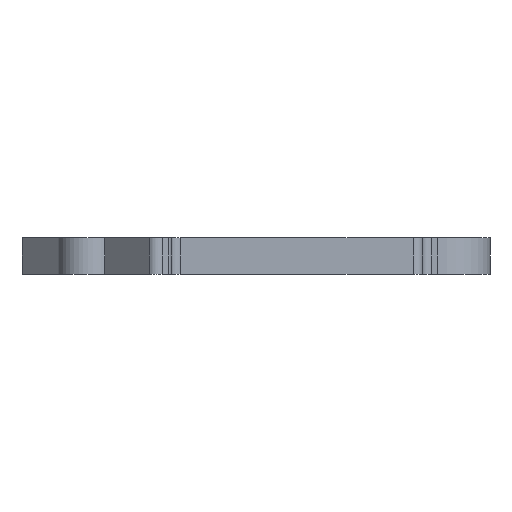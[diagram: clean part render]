
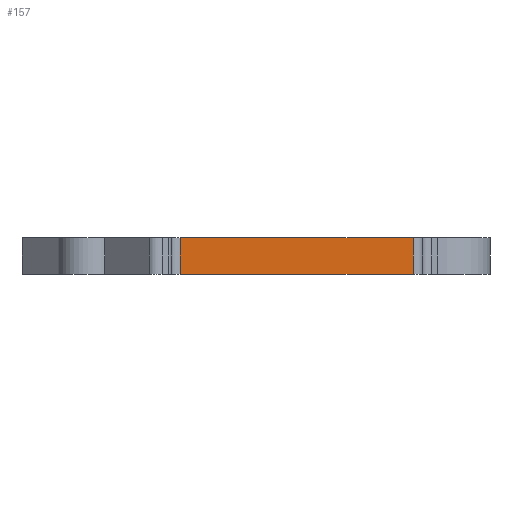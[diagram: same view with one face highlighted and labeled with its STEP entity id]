
A CAD part, front view. The second image highlights one B-rep face of the part: STEP entity #157.
In plain terms, the highlighted planar face has unit normal (0, -1, 0).
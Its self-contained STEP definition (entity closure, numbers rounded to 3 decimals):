
#44 = DIRECTION ( 'NONE',  ( 1., 0., 0. ) ) ;
#46 = LINE ( 'NONE', #1185, #407 ) ;
#148 = CARTESIAN_POINT ( 'NONE',  ( 1.7, -8.4, 4. ) ) ;
#157 = ADVANCED_FACE ( 'NONE', ( #653 ), #451, .F. ) ;
#163 = DIRECTION ( 'NONE',  ( 0., 0., -1. ) ) ;
#194 = ORIENTED_EDGE ( 'NONE', *, *, #856, .T. ) ;
#195 = CARTESIAN_POINT ( 'NONE',  ( 1.7, -8.4, 0. ) ) ;
#216 = DIRECTION ( 'NONE',  ( 0., 0., 1. ) ) ;
#262 = EDGE_LOOP ( 'NONE', ( #477, #411, #194, #475 ) ) ;
#407 = VECTOR ( 'NONE', #163, 1000. ) ;
#411 = ORIENTED_EDGE ( 'NONE', *, *, #768, .T. ) ;
#451 = PLANE ( 'NONE',  #468 ) ;
#468 = AXIS2_PLACEMENT_3D ( 'NONE', #555, #1355, #216 ) ;
#475 = ORIENTED_EDGE ( 'NONE', *, *, #1188, .T. ) ;
#477 = ORIENTED_EDGE ( 'NONE', *, *, #1108, .F. ) ;
#493 = CARTESIAN_POINT ( 'NONE',  ( 8.725, -8.4, 0. ) ) ;
#499 = LINE ( 'NONE', #1069, #1150 ) ;
#555 = CARTESIAN_POINT ( 'NONE',  ( 1.7, -8.4, 13.8 ) ) ;
#616 = LINE ( 'NONE', #148, #934 ) ;
#638 = VERTEX_POINT ( 'NONE', #1278 ) ;
#653 = FACE_OUTER_BOUND ( 'NONE', #262, .T. ) ;
#734 = VERTEX_POINT ( 'NONE', #1292 ) ;
#735 = CARTESIAN_POINT ( 'NONE',  ( 8.725, -8.4, 4. ) ) ;
#768 = EDGE_CURVE ( 'NONE', #1206, #1171, #46, .T. ) ;
#856 = EDGE_CURVE ( 'NONE', #1171, #734, #871, .T. ) ;
#871 = LINE ( 'NONE', #195, #1241 ) ;
#934 = VECTOR ( 'NONE', #44, 1000. ) ;
#1069 = CARTESIAN_POINT ( 'NONE',  ( 34.2, -8.4, 13.8 ) ) ;
#1108 = EDGE_CURVE ( 'NONE', #1206, #638, #616, .T. ) ;
#1150 = VECTOR ( 'NONE', #1400, 1000. ) ;
#1171 = VERTEX_POINT ( 'NONE', #493 ) ;
#1185 = CARTESIAN_POINT ( 'NONE',  ( 8.725, -8.4, 13.8 ) ) ;
#1188 = EDGE_CURVE ( 'NONE', #734, #638, #499, .T. ) ;
#1206 = VERTEX_POINT ( 'NONE', #735 ) ;
#1241 = VECTOR ( 'NONE', #1423, 1000. ) ;
#1278 = CARTESIAN_POINT ( 'NONE',  ( 34.2, -8.4, 4. ) ) ;
#1292 = CARTESIAN_POINT ( 'NONE',  ( 34.2, -8.4, 0. ) ) ;
#1355 = DIRECTION ( 'NONE',  ( 0., 1., 0. ) ) ;
#1400 = DIRECTION ( 'NONE',  ( 0., 0., 1. ) ) ;
#1423 = DIRECTION ( 'NONE',  ( 1., 0., 0. ) ) ;
